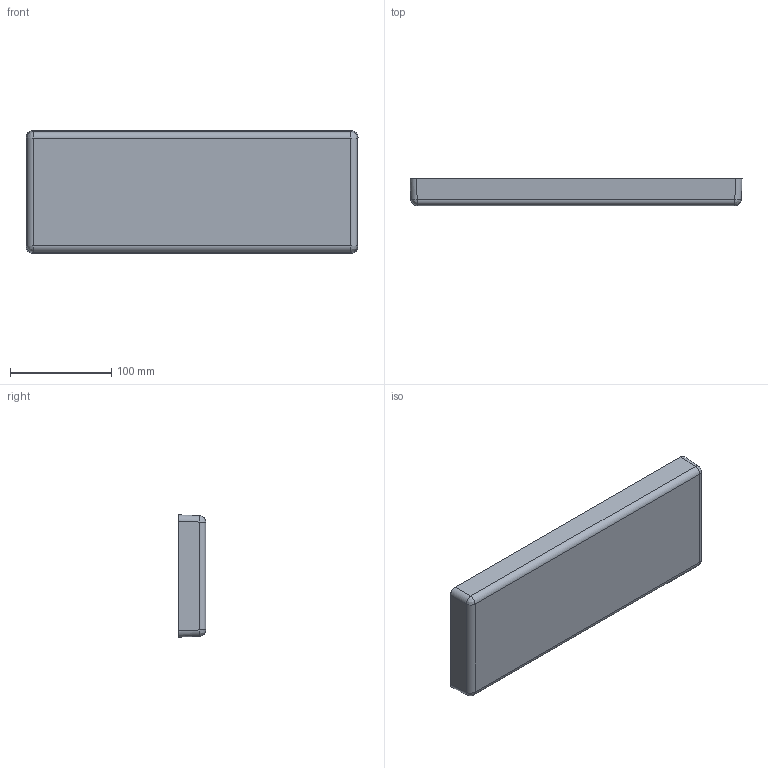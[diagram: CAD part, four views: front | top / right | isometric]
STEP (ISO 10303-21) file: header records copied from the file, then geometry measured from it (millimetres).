
FILE_DESCRIPTION (( 'STEP AP203' ), '1' );
FILE_NAME ('1420 Surface Rev A TOP.STEP', '2005-05-05T23:25:01', ( ' ' ), ( ' ' ), 'SwSTEP 2.0', 'SolidWorks 2004286', '' );
FILE_SCHEMA (( 'CONFIG_CONTROL_DESIGN' ));
Length unit declared in the file: inch
Products named in the file (1): 1420 Surface Rev A TOP
Bounding box: 327.66 x 27.18 x 120.65 mm (x, y, z)
Surface area: 60414.2 mm2 (no closed solid volume)
Topology: 0 solids, 1 shells, 17 faces, 36 edges, 20 vertices
Faces by surface type: cylinder 8, plane 5, bspline 4
Entity records: 655 total; most frequent: CARTESIAN_POINT 234, DIRECTION 72, ORIENTED_EDGE 64, EDGE_CURVE 36, AXIS2_PLACEMENT_3D 26, LINE 20, VECTOR 20, VERTEX_POINT 20
